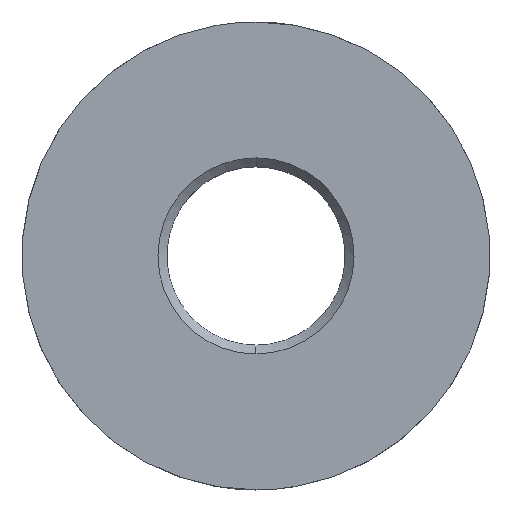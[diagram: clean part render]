
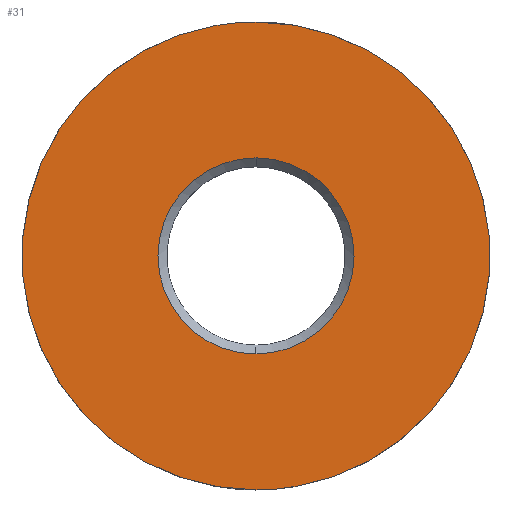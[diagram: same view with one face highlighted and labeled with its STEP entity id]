
A CAD part, top view. The second image highlights one B-rep face of the part: STEP entity #31.
In plain terms, the highlighted planar face has unit normal (0, 0, 1).
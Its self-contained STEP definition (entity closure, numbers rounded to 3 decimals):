
#16 = ORIENTED_EDGE ( 'NONE', *, *, #345, .T. ) ;
#21 = B_SPLINE_CURVE_WITH_KNOTS ( 'NONE', 8,
 ( #302, #246, #136, #266, #396, #362, #411, #119, #22 ),
 .UNSPECIFIED., .F., .F.,
 ( 9, 9 ),
 ( 0., 0.014 ),
 .UNSPECIFIED. ) ;
#22 = CARTESIAN_POINT ( 'NONE',  ( 0., -4.4, 3. ) ) ;
#31 = ADVANCED_FACE ( 'NONE', ( #88, #183 ), #378, .T. ) ;
#34 = CARTESIAN_POINT ( 'NONE',  ( -4.123, 10.5, 3. ) ) ;
#36 = CARTESIAN_POINT ( 'NONE',  ( 0., 10.5, 3. ) ) ;
#48 = ORIENTED_EDGE ( 'NONE', *, *, #178, .T. ) ;
#72 = CARTESIAN_POINT ( 'NONE',  ( -12.619, -0.001, 3. ) ) ;
#76 = CARTESIAN_POINT ( 'NONE',  ( -8.247, -8.65, 3. ) ) ;
#81 = VERTEX_POINT ( 'NONE', #221 ) ;
#82 = CARTESIAN_POINT ( 'NONE',  ( 11.401, -4.951, 3. ) ) ;
#87 = DIRECTION ( 'NONE',  ( 0., 0., 1. ) ) ;
#88 = FACE_BOUND ( 'NONE', #363, .T. ) ;
#103 = CARTESIAN_POINT ( 'NONE',  ( -1.728, 4.4, 3. ) ) ;
#113 = VERTEX_POINT ( 'NONE', #343 ) ;
#119 = CARTESIAN_POINT ( 'NONE',  ( 1.728, -4.4, 3. ) ) ;
#127 = CARTESIAN_POINT ( 'NONE',  ( 10.92, -10.92, 3. ) ) ;
#131 = CARTESIAN_POINT ( 'NONE',  ( -11.401, -4.949, 3. ) ) ;
#134 = CARTESIAN_POINT ( 'NONE',  ( 0., -10.5, 3. ) ) ;
#136 = CARTESIAN_POINT ( 'NONE',  ( 3.456, 3.625, 3. ) ) ;
#149 = EDGE_CURVE ( 'NONE', #278, #81, #374, .T. ) ;
#152 = CARTESIAN_POINT ( 'NONE',  ( 0., 10.5, 3. ) ) ;
#164 = CARTESIAN_POINT ( 'NONE',  ( 0., 4.4, 3. ) ) ;
#166 = CARTESIAN_POINT ( 'NONE',  ( 4.123, -10.5, 3. ) ) ;
#167 = CARTESIAN_POINT ( 'NONE',  ( -3.456, -3.625, 3. ) ) ;
#178 = EDGE_CURVE ( 'NONE', #308, #113, #197, .T. ) ;
#183 = FACE_OUTER_BOUND ( 'NONE', #238, .T. ) ;
#197 = B_SPLINE_CURVE_WITH_KNOTS ( 'NONE', 8,
 ( #264, #319, #167, #290, #391, #360, #321, #103, #164 ),
 .UNSPECIFIED., .F., .F.,
 ( 9, 9 ),
 ( 0., 0.014 ),
 .UNSPECIFIED. ) ;
#213 = CARTESIAN_POINT ( 'NONE',  ( 8.247, -8.65, 3. ) ) ;
#221 = CARTESIAN_POINT ( 'NONE',  ( 0., 10.5, 3. ) ) ;
#233 = CARTESIAN_POINT ( 'NONE',  ( -8.247, 8.65, 3. ) ) ;
#238 = EDGE_LOOP ( 'NONE', ( #404, #269 ) ) ;
#242 = CARTESIAN_POINT ( 'NONE',  ( 12.619, 0.001, 3. ) ) ;
#246 = CARTESIAN_POINT ( 'NONE',  ( 1.728, 4.4, 3. ) ) ;
#248 = AXIS2_PLACEMENT_3D ( 'NONE', #127, #87, #260 ) ;
#252 = B_SPLINE_CURVE_WITH_KNOTS ( 'NONE', 8,
 ( #152, #281, #253, #364, #242, #82, #213, #166, #295 ),
 .UNSPECIFIED., .F., .F.,
 ( 9, 9 ),
 ( 0., 0.033 ),
 .UNSPECIFIED. ) ;
#253 = CARTESIAN_POINT ( 'NONE',  ( 8.247, 8.65, 3. ) ) ;
#260 = DIRECTION ( 'NONE',  ( 0., 1., 0. ) ) ;
#264 = CARTESIAN_POINT ( 'NONE',  ( 0., -4.4, 3. ) ) ;
#266 = CARTESIAN_POINT ( 'NONE',  ( 4.778, 2.074, 3. ) ) ;
#268 = CARTESIAN_POINT ( 'NONE',  ( 0., -10.5, 3. ) ) ;
#269 = ORIENTED_EDGE ( 'NONE', *, *, #149, .F. ) ;
#278 = VERTEX_POINT ( 'NONE', #268 ) ;
#281 = CARTESIAN_POINT ( 'NONE',  ( 4.123, 10.5, 3. ) ) ;
#290 = CARTESIAN_POINT ( 'NONE',  ( -4.778, -2.074, 3. ) ) ;
#295 = CARTESIAN_POINT ( 'NONE',  ( 0., -10.5, 3. ) ) ;
#302 = CARTESIAN_POINT ( 'NONE',  ( 0., 4.4, 3. ) ) ;
#307 = CARTESIAN_POINT ( 'NONE',  ( 0., -4.4, 3. ) ) ;
#308 = VERTEX_POINT ( 'NONE', #307 ) ;
#319 = CARTESIAN_POINT ( 'NONE',  ( -1.728, -4.4, 3. ) ) ;
#320 = CARTESIAN_POINT ( 'NONE',  ( -4.123, -10.5, 3. ) ) ;
#321 = CARTESIAN_POINT ( 'NONE',  ( -3.456, 3.625, 3. ) ) ;
#343 = CARTESIAN_POINT ( 'NONE',  ( 0., 4.4, 3. ) ) ;
#345 = EDGE_CURVE ( 'NONE', #113, #308, #21, .T. ) ;
#353 = EDGE_CURVE ( 'NONE', #81, #278, #252, .T. ) ;
#360 = CARTESIAN_POINT ( 'NONE',  ( -4.778, 2.074, 3. ) ) ;
#362 = CARTESIAN_POINT ( 'NONE',  ( 4.778, -2.074, 3. ) ) ;
#363 = EDGE_LOOP ( 'NONE', ( #48, #16 ) ) ;
#364 = CARTESIAN_POINT ( 'NONE',  ( 11.401, 4.949, 3. ) ) ;
#374 = B_SPLINE_CURVE_WITH_KNOTS ( 'NONE', 8,
 ( #134, #320, #76, #131, #72, #394, #233, #34, #36 ),
 .UNSPECIFIED., .F., .F.,
 ( 9, 9 ),
 ( 0., 0.033 ),
 .UNSPECIFIED. ) ;
#378 = PLANE ( 'NONE',  #248 ) ;
#391 = CARTESIAN_POINT ( 'NONE',  ( -5.288, 0., 3. ) ) ;
#394 = CARTESIAN_POINT ( 'NONE',  ( -11.401, 4.951, 3. ) ) ;
#396 = CARTESIAN_POINT ( 'NONE',  ( 5.288, 0., 3. ) ) ;
#404 = ORIENTED_EDGE ( 'NONE', *, *, #353, .F. ) ;
#411 = CARTESIAN_POINT ( 'NONE',  ( 3.456, -3.625, 3. ) ) ;
